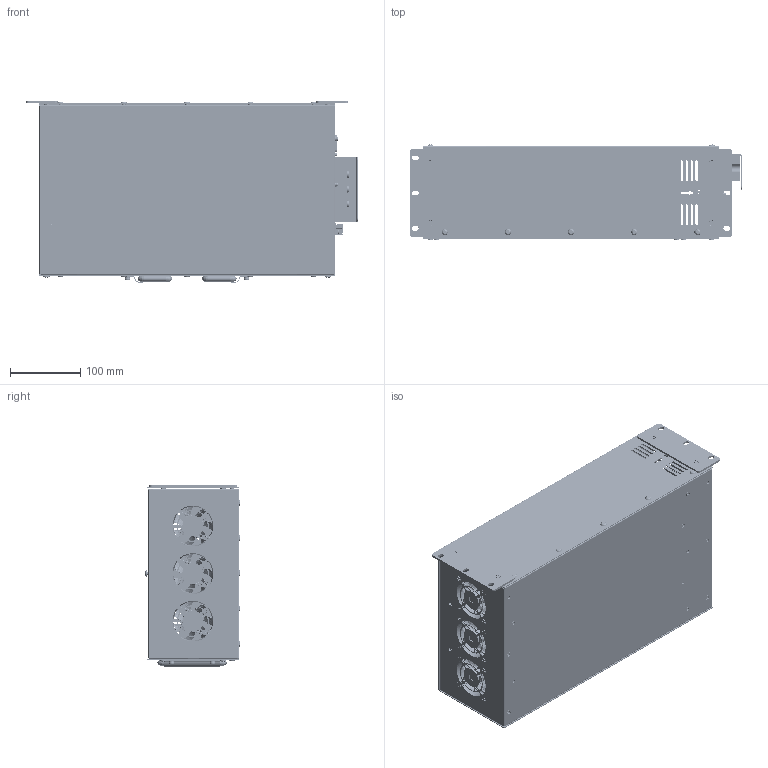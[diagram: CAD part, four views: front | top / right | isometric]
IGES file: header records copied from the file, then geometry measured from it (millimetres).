
Global section: file name: VX3COM_OLED_21pitch단자대_HANDLE2SM_2026.06.17_단순화_1,22HAutodesk; native system: Inventor 2026; preprocessor: unknown; author: Administrator; date: 20260618.083949; units: millimetre
Bounding box: 471.02 x 134.93 x 258.45 mm (x, y, z)
Volume: 765286 mm3; surface area: 944818.1 mm2
Topology: 15 solids, 15 shells, 9459 faces, 25876 edges, 17117 vertices
Faces by surface type: bspline 9459
